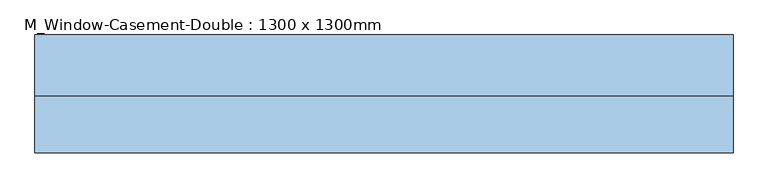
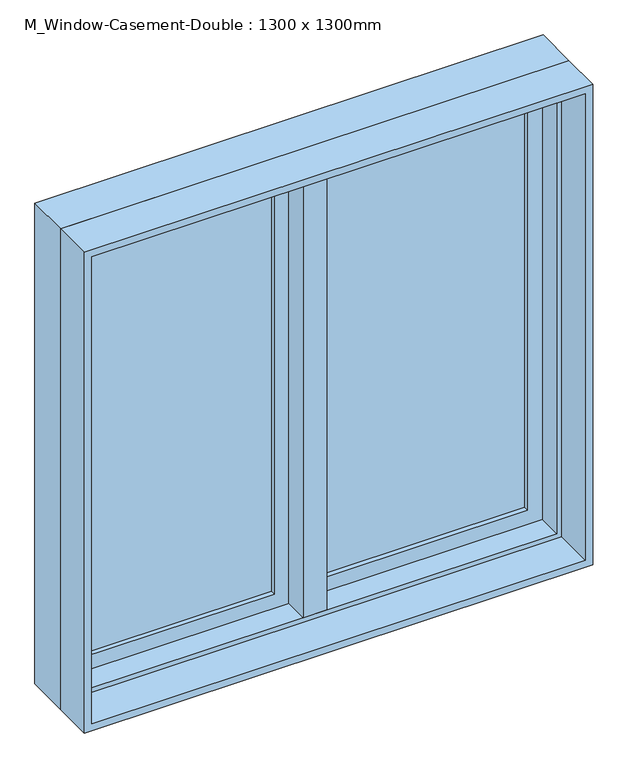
"""IFC4 building model written with IfcOpenShell, lengths in millimetres: window geometry, M_Window-Casement-Double : 1300 x 1300mm."""

from ifc_helpers import new_model, si_unit, frame, origin, place, context, project, spatial, polyline, outline, extrude, faceted_brep, source, transform, mapped, element, save


def m_window_casement_double_1300_x_1300mm_8c8ee3f3(model_context):
    return source(origin(), model_context, "Body", "SolidModel", [
        faceted_brep([(9.525, 119.05, 2187.3), (-9.525, 119.05, 2187.3), (-9.525, 68.25, 2187.3), (9.525, 68.25, 2187.3), (9.525, 119.05, 912.7), (9.525, 68.25, 912.7), (-9.525, 68.25, 912.7), (-9.525, 119.05, 912.7), (-9.525, 68.25, 931.75), (-9.525, 68.25, 2168.25), (-30.1625, 68.25, 931.75), (-30.1625, 68.25, 2168.25), (-30.1625, 4.75, 931.75), (-30.1625, 4.75, 2168.25), (30.1625, 4.75, 931.75), (30.1625, 4.75, 2168.25), (30.1625, 68.25, 931.75), (30.1625, 68.25, 2168.25), (9.525, 68.25, 931.75), (9.525, 68.25, 2168.25)], [[[0, 1, 2, 3]], [[4, 5, 6, 7]], [[1, 0, 4, 7]], [[2, 1, 7, 6, 8, 9]], [[9, 8, 10, 11]], [[11, 10, 12, 13]], [[13, 12, 14, 15]], [[15, 14, 16, 17]], [[17, 16, 18, 19]], [[0, 3, 19, 18, 5, 4]], [[18, 8, 6, 5]], [[9, 19, 3, 2]], [[8, 18, 16, 14, 12, 10]], [[19, 9, 11, 13, 15, 17]]]),
        extrude(outline(polyline([(-66.675, 100.0), (-66.675, 93.65), (-580.15, 93.65), (-580.15, 100.0), (-66.675, 100.0)])), frame((0.0, 0.0, 969.85), z_axis=(0.0, 0.0, 1.0), x_axis=(1.0, 0.0, 0.0)), (0.0, 0.0, 1.0), 1160.3),
        extrude(outline(polyline([(-580.15, 80.95), (-580.15, 87.3), (-66.675, 87.3), (-66.675, 80.95), (-580.15, 80.95)])), frame((0.0, 0.0, 969.85), z_axis=(0.0, 0.0, 1.0), x_axis=(1.0, 0.0, 0.0)), (0.0, 0.0, 1.0), 1160.3),
        extrude(outline(polyline([(580.15, 100.0), (580.15, 93.65), (66.675, 93.65), (66.675, 100.0), (580.15, 100.0)])), frame((0.0, 0.0, 969.85), z_axis=(0.0, 0.0, 1.0), x_axis=(1.0, 0.0, 0.0)), (0.0, 0.0, 1.0), 1160.3),
        extrude(outline(polyline([(66.675, 80.95), (66.675, 87.3), (580.15, 87.3), (580.15, 80.95), (66.675, 80.95)])), frame((0.0, 0.0, 969.85), z_axis=(0.0, 0.0, 1.0), x_axis=(1.0, 0.0, 0.0)), (0.0, 0.0, 1.0), 1160.3),
        extrude(outline(polyline([(2187.3, -637.3), (912.7, -637.3), (912.7, -9.525), (2187.3, -9.525), (2187.3, -637.3)]), holes=[polyline([(2130.15, -66.675), (969.85, -66.675), (969.85, -580.15), (2130.15, -580.15), (2130.15, -66.675)])]), frame((0.0, 68.25, 0.0), z_axis=(0.0, 1.0, 0.0), x_axis=(0.0, 0.0, 1.0)), (0.0, 0.0, 1.0), 44.45),
        extrude(outline(polyline([(912.7, 637.3), (2187.3, 637.3), (2187.3, 9.525), (912.7, 9.525), (912.7, 637.3)]), holes=[polyline([(969.85, 66.675), (2130.15, 66.675), (2130.15, 580.15), (969.85, 580.15), (969.85, 66.675)])]), frame((0.0, 68.25, 0.0), z_axis=(0.0, 1.0, 0.0), x_axis=(0.0, 0.0, 1.0)), (0.0, 0.0, 1.0), 44.45),
        extrude(outline(polyline([(2200.0, -650.0), (900.0, -650.0), (900.0, 650.0), (2200.0, 650.0), (2200.0, -650.0)]), holes=[polyline([(2180.95, 630.95), (919.05, 630.95), (919.05, -630.95), (2180.95, -630.95), (2180.95, 630.95)])]), frame((0.0, -100.0, 0.0), z_axis=(0.0, 1.0, 0.0), x_axis=(0.0, 0.0, 1.0)), (0.0, 0.0, 1.0), 104.75),
        faceted_brep([(618.25, 68.25, 2168.25), (618.25, 4.75, 2168.25), (-618.25, 4.75, 2168.25), (-618.25, 68.25, 2168.25), (637.3, 119.05, 2187.3), (637.3, 68.25, 2187.3), (-637.3, 68.25, 2187.3), (-637.3, 119.05, 2187.3), (650.0, 4.75, 2200.0), (650.0, 119.05, 2200.0), (-650.0, 119.05, 2200.0), (-650.0, 4.75, 2200.0), (-618.25, 4.75, 931.75), (-618.25, 68.25, 931.75), (-637.3, 68.25, 912.7), (-637.3, 119.05, 912.7), (-650.0, 119.05, 900.0), (-650.0, 4.75, 900.0), (618.25, 4.75, 931.75), (618.25, 68.25, 931.75), (637.3, 68.25, 912.7), (637.3, 119.05, 912.7), (650.0, 119.05, 900.0), (650.0, 4.75, 900.0)], [[[0, 1, 2, 3]], [[4, 5, 6, 7]], [[8, 9, 10, 11]], [[3, 2, 12, 13]], [[7, 6, 14, 15]], [[11, 10, 16, 17]], [[13, 12, 18, 19]], [[15, 14, 20, 21]], [[17, 16, 22, 23]], [[11, 17, 23, 8], [1, 18, 12, 2]], [[19, 18, 1, 0]], [[5, 20, 14, 6], [3, 13, 19, 0]], [[21, 20, 5, 4]], [[23, 22, 9, 8]], [[9, 22, 16, 10], [7, 15, 21, 4]]]),
    ])


if __name__ == "__main__":
    model = new_model("IFC4")
    model_context = context("Model", 3, world=origin())
    ifc_project = project(units=[si_unit("LENGTHUNIT", "METRE", prefix="MILLI")], contexts=[model_context])
    site = spatial("IfcSite", under=ifc_project)
    building = spatial("IfcBuilding", under=site)
    placement = place(None, origin())
    m_window_casement_double_1300_x_1300mm_shape = m_window_casement_double_1300_x_1300mm_8c8ee3f3(model_context)
    element("IfcWindow", 1, ObjectType="M_Window-Casement-Double : 1300 x 1300mm", at=placement, inside=building, context=model_context, shape_type="MappedRepresentation", body=[
        mapped(m_window_casement_double_1300_x_1300mm_shape, transform((0.0, 0.0, 0.0), x_axis=(1.0, 0.0, 0.0), y_axis=(0.0, 1.0, 0.0), z_axis=(0.0, 0.0, 1.0))),
    ])
    save(model, "model.ifc")
